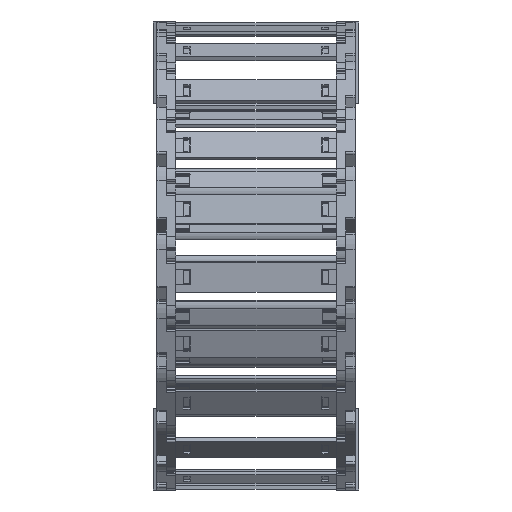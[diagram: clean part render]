
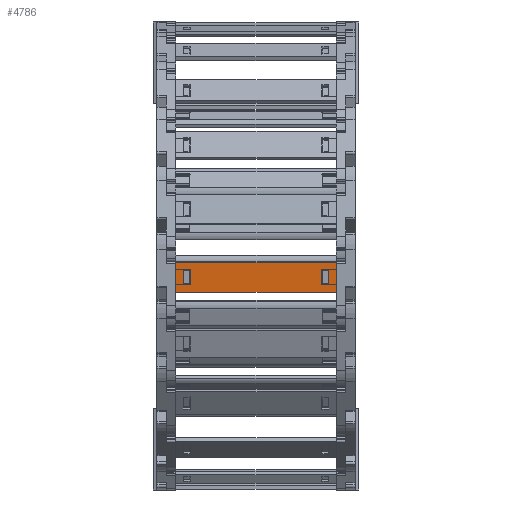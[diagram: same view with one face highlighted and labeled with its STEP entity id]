
A CAD part, left-side view. The second image highlights one B-rep face of the part: STEP entity #4786.
In plain terms, the highlighted planar face has unit normal (-0.996, 0, -0.087) as drawn and (0, 1, 0) by its records, which use the part's own axes.
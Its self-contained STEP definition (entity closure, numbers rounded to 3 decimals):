
#4278=DIRECTION('',(-1.,0.,0.));
#4279=VECTOR('',#4278,3.648);
#4280=CARTESIAN_POINT('',(66.17,1.5,4.075));
#4281=LINE('',#4280,#4279);
#4290=DIRECTION('',(1.,0.,0.));
#4291=VECTOR('',#4290,3.648);
#4292=CARTESIAN_POINT('',(62.522,1.5,-4.075));
#4293=LINE('',#4292,#4291);
#4316=DIRECTION('',(0.,0.,-1.));
#4317=VECTOR('',#4316,15.8);
#4318=CARTESIAN_POINT('',(70.14,1.5,7.9));
#4319=LINE('',#4318,#4317);
#4348=DIRECTION('',(1.,0.,0.));
#4349=VECTOR('',#4348,84.9);
#4350=CARTESIAN_POINT('',(-14.76,1.5,7.9));
#4351=LINE('',#4350,#4349);
#4352=DIRECTION('',(0.,0.,1.));
#4353=VECTOR('',#4352,15.8);
#4354=CARTESIAN_POINT('',(-14.76,1.5,-7.9));
#4355=LINE('',#4354,#4353);
#4392=DIRECTION('',(1.,0.,0.));
#4393=VECTOR('',#4392,84.9);
#4394=CARTESIAN_POINT('',(-14.76,1.5,-7.9));
#4395=LINE('',#4394,#4393);
#4396=DIRECTION('',(0.,0.,1.));
#4397=VECTOR('',#4396,8.15);
#4398=CARTESIAN_POINT('',(62.522,1.5,-4.075));
#4399=LINE('',#4398,#4397);
#4420=DIRECTION('',(0.,0.,1.));
#4421=VECTOR('',#4420,8.15);
#4422=CARTESIAN_POINT('',(66.17,1.5,-4.075));
#4423=LINE('',#4422,#4421);
#4440=DIRECTION('',(0.,0.,1.));
#4441=VECTOR('',#4440,8.15);
#4442=CARTESIAN_POINT('',(-7.142,1.5,-4.075));
#4443=LINE('',#4442,#4441);
#4448=DIRECTION('',(-1.,0.,0.));
#4449=VECTOR('',#4448,3.648);
#4450=CARTESIAN_POINT('',(-7.142,1.5,4.075));
#4451=LINE('',#4450,#4449);
#4460=DIRECTION('',(0.,0.,-1.));
#4461=VECTOR('',#4460,8.15);
#4462=CARTESIAN_POINT('',(-10.79,1.5,4.075));
#4463=LINE('',#4462,#4461);
#4480=DIRECTION('',(1.,0.,0.));
#4481=VECTOR('',#4480,3.648);
#4482=CARTESIAN_POINT('',(-10.79,1.5,-4.075));
#4483=LINE('',#4482,#4481);
#4504=CARTESIAN_POINT('',(66.17,1.5,4.075));
#4505=VERTEX_POINT('',#4504);
#4506=CARTESIAN_POINT('',(62.522,1.5,4.075));
#4507=VERTEX_POINT('',#4506);
#4515=CARTESIAN_POINT('',(70.14,1.5,7.9));
#4517=VERTEX_POINT('',#4515);
#4518=CARTESIAN_POINT('',(70.14,1.5,-7.9));
#4519=VERTEX_POINT('',#4518);
#4528=CARTESIAN_POINT('',(62.522,1.5,-4.075));
#4529=VERTEX_POINT('',#4528);
#4530=CARTESIAN_POINT('',(66.17,1.5,-4.075));
#4531=VERTEX_POINT('',#4530);
#4535=CARTESIAN_POINT('',(-14.76,1.5,7.9));
#4537=VERTEX_POINT('',#4535);
#4538=CARTESIAN_POINT('',(-14.76,1.5,-7.9));
#4539=VERTEX_POINT('',#4538);
#4550=CARTESIAN_POINT('',(-7.142,1.5,-4.075));
#4551=CARTESIAN_POINT('',(-7.142,1.5,4.075));
#4552=VERTEX_POINT('',#4550);
#4553=VERTEX_POINT('',#4551);
#4554=CARTESIAN_POINT('',(-10.79,1.5,-4.075));
#4555=VERTEX_POINT('',#4554);
#4556=CARTESIAN_POINT('',(-10.79,1.5,4.075));
#4557=VERTEX_POINT('',#4556);
#4757=CARTESIAN_POINT('',(101.88,1.5,10.061));
#4758=DIRECTION('',(0.,-1.,0.));
#4759=DIRECTION('',(0.,0.,-1.));
#4760=AXIS2_PLACEMENT_3D('',#4757,#4758,#4759);
#4761=PLANE('',#4760);
#4762=ORIENTED_EDGE('',*,*,#4679,.F.);
#4763=ORIENTED_EDGE('',*,*,#4710,.F.);
#4764=ORIENTED_EDGE('',*,*,#4730,.F.);
#4766=ORIENTED_EDGE('',*,*,#4765,.T.);
#4767=EDGE_LOOP('',(#4762,#4763,#4764,#4766));
#4768=FACE_OUTER_BOUND('',#4767,.F.);
#4769=ORIENTED_EDGE('',*,*,#4598,.T.);
#4770=ORIENTED_EDGE('',*,*,#4576,.F.);
#4772=ORIENTED_EDGE('',*,*,#4771,.F.);
#4773=ORIENTED_EDGE('',*,*,#4618,.F.);
#4774=EDGE_LOOP('',(#4769,#4770,#4772,#4773));
#4775=FACE_BOUND('',#4774,.F.);
#4777=ORIENTED_EDGE('',*,*,#4776,.F.);
#4779=ORIENTED_EDGE('',*,*,#4778,.F.);
#4781=ORIENTED_EDGE('',*,*,#4780,.F.);
#4783=ORIENTED_EDGE('',*,*,#4782,.F.);
#4784=EDGE_LOOP('',(#4777,#4779,#4781,#4783));
#4785=FACE_BOUND('',#4784,.F.);
#4786=ADVANCED_FACE('',(#4768,#4775,#4785),#4761,.F.);
#4576=EDGE_CURVE('',#4505,#4507,#4281,.T.);
#4598=EDGE_CURVE('',#4529,#4507,#4399,.T.);
#4618=EDGE_CURVE('',#4529,#4531,#4293,.T.);
#4679=EDGE_CURVE('',#4517,#4519,#4319,.T.);
#4710=EDGE_CURVE('',#4537,#4517,#4351,.T.);
#4730=EDGE_CURVE('',#4539,#4537,#4355,.T.);
#4765=EDGE_CURVE('',#4539,#4519,#4395,.T.);
#4771=EDGE_CURVE('',#4531,#4505,#4423,.T.);
#4776=EDGE_CURVE('',#4552,#4553,#4443,.T.);
#4778=EDGE_CURVE('',#4555,#4552,#4483,.T.);
#4780=EDGE_CURVE('',#4557,#4555,#4463,.T.);
#4782=EDGE_CURVE('',#4553,#4557,#4451,.T.);
